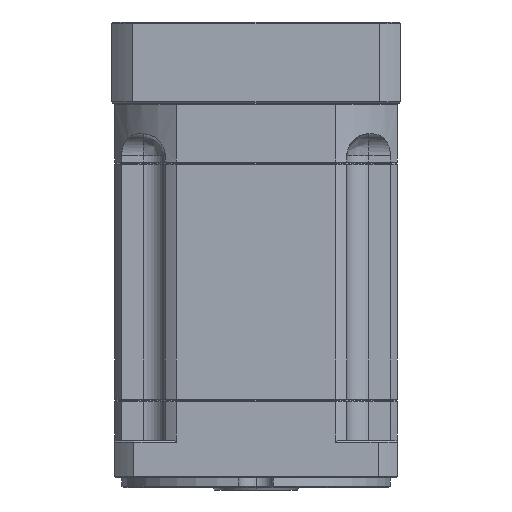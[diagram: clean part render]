
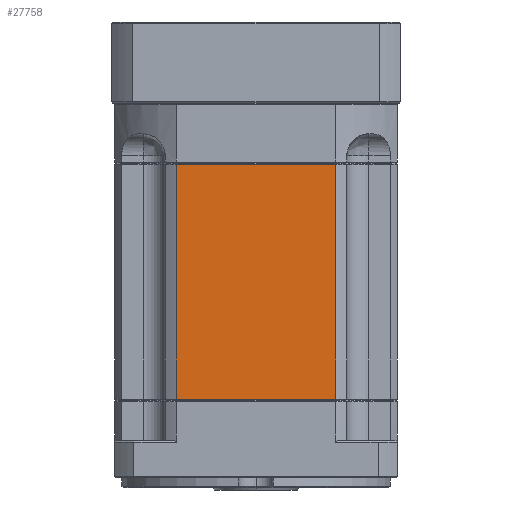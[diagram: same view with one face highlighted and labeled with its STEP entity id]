
A CAD part, left-side view. The second image highlights one B-rep face of the part: STEP entity #27758.
In plain terms, the highlighted planar face has unit normal (-1, 0, 0).
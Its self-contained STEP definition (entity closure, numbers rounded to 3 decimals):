
#4827 = DIRECTION ( 'NONE',  ( 1., 0., 0. ) ) ;
#10268 = LINE ( 'NONE', #45144, #56872 ) ;
#12323 = EDGE_CURVE ( 'NONE', #24410, #30448, #102595, .T. ) ;
#13337 = CARTESIAN_POINT ( 'NONE',  ( -201.701, 120.795, -48.231 ) ) ;
#14030 = ORIENTED_EDGE ( 'NONE', *, *, #12323, .F. ) ;
#15854 = CARTESIAN_POINT ( 'NONE',  ( -201.701, 55.995, 47.269 ) ) ;
#15896 = VERTEX_POINT ( 'NONE', #66785 ) ;
#19830 = DIRECTION ( 'NONE',  ( 0., 0., -1. ) ) ;
#21476 = LINE ( 'NONE', #96789, #47525 ) ;
#22867 = EDGE_CURVE ( 'NONE', #15896, #24410, #79662, .T. ) ;
#24410 = VERTEX_POINT ( 'NONE', #15854 ) ;
#24882 = EDGE_LOOP ( 'NONE', ( #44256, #14030, #99290, #105779 ) ) ;
#27758 = ADVANCED_FACE ( 'NONE', ( #73521 ), #65752, .F. ) ;
#30448 = VERTEX_POINT ( 'NONE', #92625 ) ;
#33050 = VECTOR ( 'NONE', #67080, 1000. ) ;
#35605 = DIRECTION ( 'NONE',  ( 0., 0., 1. ) ) ;
#44256 = ORIENTED_EDGE ( 'NONE', *, *, #113347, .F. ) ;
#45144 = CARTESIAN_POINT ( 'NONE',  ( -201.701, 30.895, -48.231 ) ) ;
#47525 = VECTOR ( 'NONE', #35605, 1000. ) ;
#56872 = VECTOR ( 'NONE', #106312, 1000. ) ;
#57335 = CARTESIAN_POINT ( 'NONE',  ( -201.701, 30.895, 47.769 ) ) ;
#65752 = PLANE ( 'NONE',  #100450 ) ;
#66110 = DIRECTION ( 'NONE',  ( 0., 1., 0. ) ) ;
#66785 = CARTESIAN_POINT ( 'NONE',  ( -201.701, 120.795, 47.269 ) ) ;
#67080 = DIRECTION ( 'NONE',  ( 0., -1., 0. ) ) ;
#73521 = FACE_OUTER_BOUND ( 'NONE', #24882, .T. ) ;
#79359 = VECTOR ( 'NONE', #19830, 1000. ) ;
#79662 = LINE ( 'NONE', #101888, #33050 ) ;
#82098 = EDGE_CURVE ( 'NONE', #113520, #15896, #21476, .T. ) ;
#89852 = CARTESIAN_POINT ( 'NONE',  ( -201.701, 55.995, -237.274 ) ) ;
#92625 = CARTESIAN_POINT ( 'NONE',  ( -201.701, 55.995, -48.231 ) ) ;
#96789 = CARTESIAN_POINT ( 'NONE',  ( -201.701, 120.795, 47.769 ) ) ;
#99290 = ORIENTED_EDGE ( 'NONE', *, *, #22867, .F. ) ;
#100450 = AXIS2_PLACEMENT_3D ( 'NONE', #57335, #4827, #66110 ) ;
#101888 = CARTESIAN_POINT ( 'NONE',  ( -201.701, 88.395, 47.269 ) ) ;
#102595 = LINE ( 'NONE', #89852, #79359 ) ;
#105779 = ORIENTED_EDGE ( 'NONE', *, *, #82098, .F. ) ;
#106312 = DIRECTION ( 'NONE',  ( 0., 1., 0. ) ) ;
#113347 = EDGE_CURVE ( 'NONE', #30448, #113520, #10268, .T. ) ;
#113520 = VERTEX_POINT ( 'NONE', #13337 ) ;
